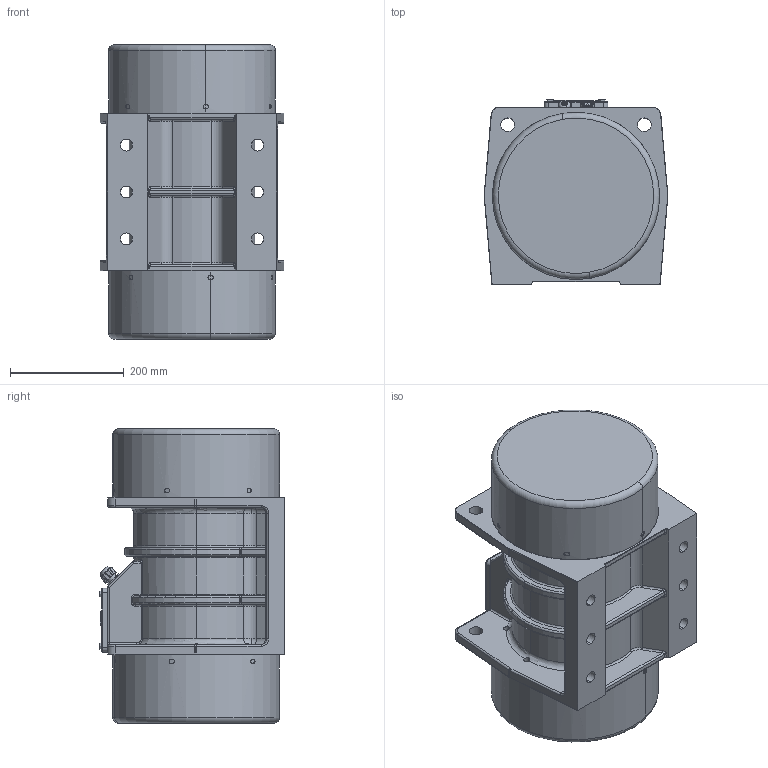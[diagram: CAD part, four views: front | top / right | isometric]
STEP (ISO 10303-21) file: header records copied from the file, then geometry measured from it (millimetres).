
FILE_DESCRIPTION (( 'STEP AP214' ), '1' );
FILE_NAME ('VEMS_132-2-530.STEP', '2019-01-18T07:32:25', ( '' ), ( '' ), 'SwSTEP 2.0', 'SolidWorks 2018', '' );
FILE_SCHEMA (( 'AUTOMOTIVE_DESIGN' ));
Length unit declared in the file: millimetre
Products named in the file (13): VEMS_KlemensKapaðý_Ýþlenmiþ_132; Rakor_Gövde_Pg11; gövde_VEMS132-6_ayaklý_iþl; Civata_Alt齂鳋e_M6x15xTP_ISO 4014 - M5 x 30 x 16-N; Rakor_Komple-Ara_Pg13,5_Varsay考an; VEMS_132-2-530; Rakor_Þapka_Pg13,5; Rakor_Tapa_Pg11; Rakor_Þapka_Pg11; VEMS132_MuhafazaTasý_Boy120_DOLU; Rakor_Komple-Ara_Pg11_Varsay考an; Rakor_Gövde_Pg13,5; Rakor_Tapa_Pg13,5
Assembly tree (16 placements, depth 3):
  VEMS_132-2-530
    gövde_VEMS132-6_ayaklý_iþl
    VEMS132_MuhafazaTasý_Boy120_DOLU  x2
    VEMS_KlemensKapaðý_Ýþlenmiþ_132
    Rakor_Komple-Ara_Pg11_Varsay考an
      Rakor_Gövde_Pg11
      Rakor_Tapa_Pg11
      Rakor_Þapka_Pg11
    Rakor_Komple-Ara_Pg13,5_Varsay考an
      Rakor_Gövde_Pg13,5
      Rakor_Tapa_Pg13,5
      Rakor_Þapka_Pg13,5
    Civata_Alt齂鳋e_M6x15xTP_ISO 4014 - M5 x 30 x 16-N  x4
Bounding box: 322.71 x 324.5 x 517 mm (x, y, z)
Volume: 21933680.2 mm3; surface area: 1359006.5 mm2
Topology: 14 solids, 14 shells, 1632 faces, 4259 edges, 2680 vertices
Faces by surface type: plane 683, cylinder 458, bspline 230, torus 189, cone 58, sphere 14
Entity records: 58225 total; most frequent: CARTESIAN_POINT 21389, ORIENTED_EDGE 7896, DIRECTION 6945, EDGE_CURVE 3948, VERTEX_POINT 2510, AXIS2_PLACEMENT_3D 2494, VECTOR 1957, LINE 1957
